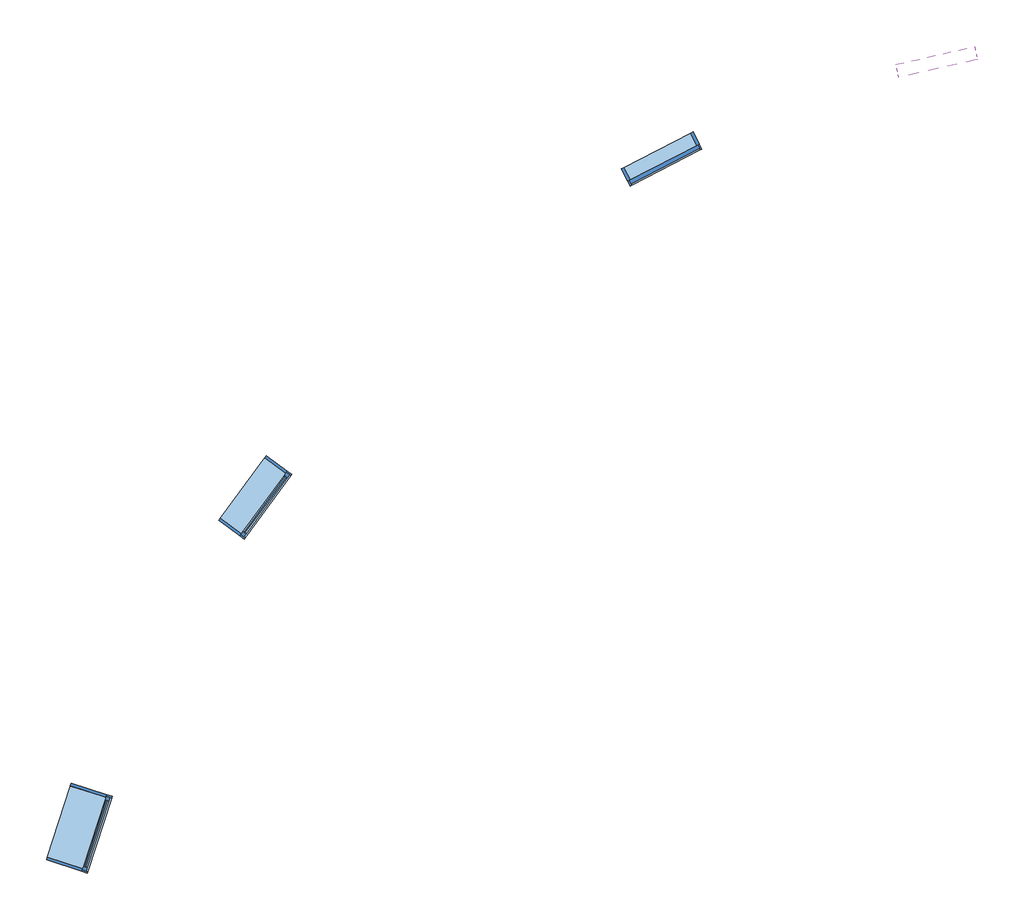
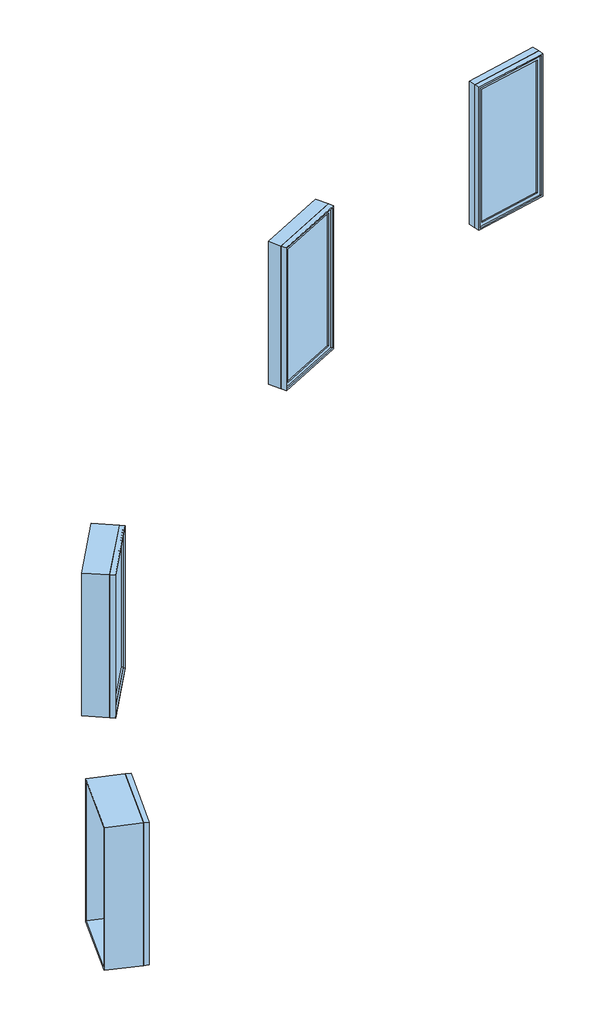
# One storey, incomplete: 4 windows.
"""IFC4 building model written with IfcOpenShell, lengths in millimetres."""

from ifc_helpers import new_model, si_unit, origin, place, context, project, spatial, transform, mapped, element, save
from components import window_0915_x_1830_mm_04d2c2f2, window_0915_x_1830_mm_9461f444, window_0915_x_1830_mm_83c38f9d, window_0915_x_1830_mm_5bc68de5

model = new_model("IFC4")

# Units and contexts
model_context = context("Model", 3, world=origin())
ifc_project = project(units=[si_unit("LENGTHUNIT", "METRE", prefix="MILLI")], contexts=[model_context])

# Site, building, storey
site = spatial("IfcSite", under=ifc_project)
building = spatial("IfcBuilding", under=site)
storey = spatial("IfcBuildingStorey", under=building, Name="樓層 1", Elevation=0.0)

# Windows
placement = place(None, origin())
window_0915_x_1830_mm_shape = window_0915_x_1830_mm_04d2c2f2(model_context)
element("IfcWindow", 1, ObjectType="M_固定 : 0915 x 1830 mm", at=placement, inside=storey, context=model_context, shape_type="MappedRepresentation", body=[
    mapped(window_0915_x_1830_mm_shape, transform((-12522.38932, 3453.2040449, 610.0), x_axis=(-0.5935389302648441, -0.8048052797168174, 0.0), y_axis=(0.8048052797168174, -0.5935389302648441, 0.0), z_axis=(0.0, 0.0, 1.0))),
])
window_0915_x_1830_mm_2_shape = window_0915_x_1830_mm_9461f444(model_context)
element("IfcWindow", 2, ObjectType="M_固定 : 0915 x 1830 mm", at=placement, inside=storey, context=model_context, shape_type="MappedRepresentation", body=[
    mapped(window_0915_x_1830_mm_2_shape, transform((-7901.2846554, 7300.4546215, 840.2787887), x_axis=(-0.888843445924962, -0.4582110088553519, 0.0), y_axis=(0.4582110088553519, -0.888843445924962, 0.0), z_axis=(0.0, 0.0, 1.0))),
])
window_0915_x_1830_mm_3_shape = window_0915_x_1830_mm_83c38f9d(model_context)
element("IfcWindow", 3, ObjectType="M_固定 : 0915 x 1830 mm", at=placement, inside=storey, context=model_context, shape_type="MappedRepresentation", body=[
    mapped(window_0915_x_1830_mm_3_shape, transform((-4774.4159223, 8403.9250928, 1080.032796), x_axis=(-0.9751923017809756, -0.2213593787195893, 0.0), y_axis=(0.2213593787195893, -0.9751923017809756, 0.0), z_axis=(0.0, 0.0, 1.0))),
])
window_0915_x_1830_mm_4_shape = window_0915_x_1830_mm_5bc68de5(model_context)
element("IfcWindow", 4, ObjectType="M_固定 : 0915 x 1830 mm", at=placement, inside=storey, context=model_context, shape_type="MappedRepresentation", body=[
    mapped(window_0915_x_1830_mm_4_shape, transform((-14522.3228264, -307.704364, 369.8973202), x_axis=(-0.3080284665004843, -0.9513771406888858, 0.0), y_axis=(0.9513771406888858, -0.3080284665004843, 0.0), z_axis=(0.0, 0.0, 1.0))),
])

save(model, "model.ifc")
